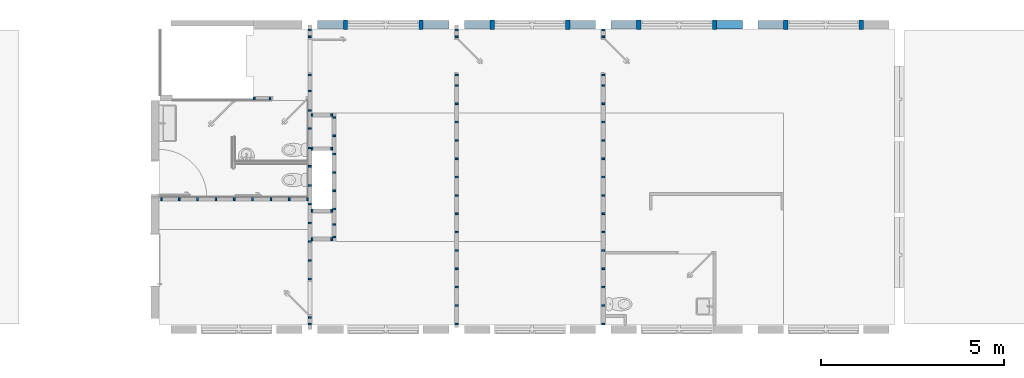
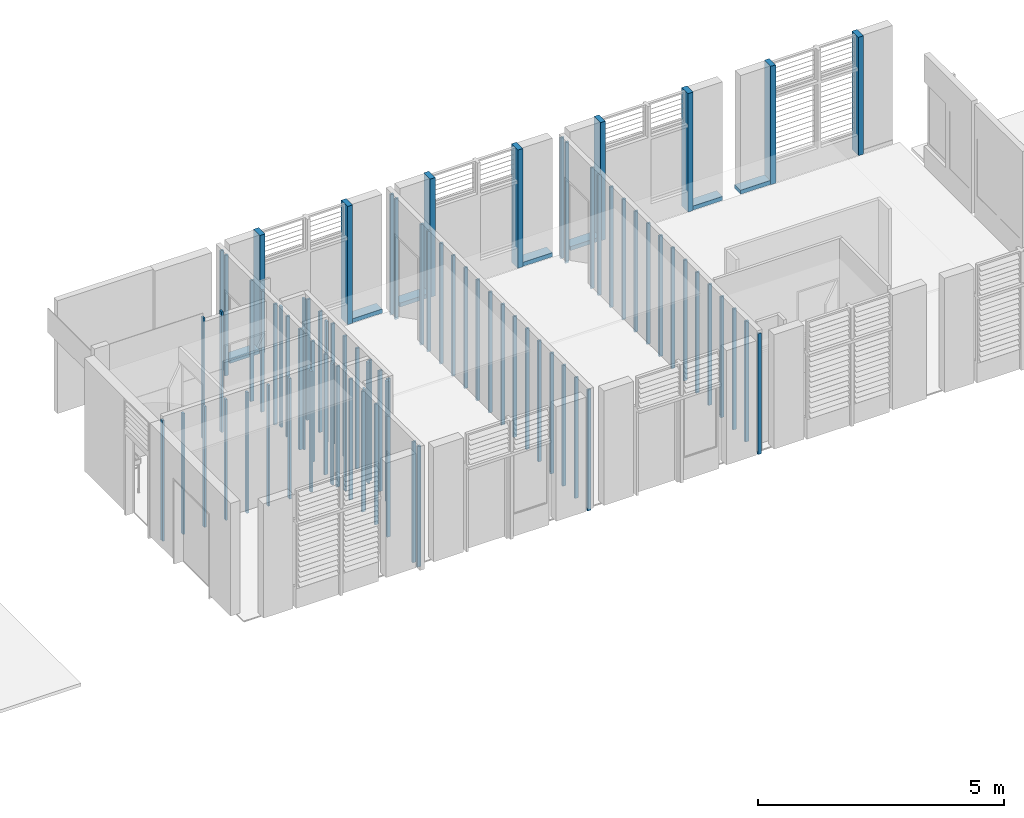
# One storey, part 1 of 15: 85 columns, 7 beams.
"""IFC2X3 building model written with IfcOpenShell, lengths in metres."""

from ifc_helpers import new_model, entity, si_unit, converted_unit, derived_unit, direction, frame, frame_2d, origin, origin_2d_with_axis, place, context, subcontext, project, spatial, rectangle, extrude, source, transform, mapped, material, type_object, type_shapes, element, save


model = new_model("IFC2X3")

# Units and contexts
model_context = context("Model", 3, precision=1e-05, world=origin(), true_north=direction((6.12303176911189e-17, 1.0)))
body_context = subcontext(model_context, "Body", "Model", "MODEL_VIEW")
ifc_project = project(units=[si_unit("LENGTHUNIT", "METRE"), si_unit("AREAUNIT", "SQUARE_METRE"), si_unit("VOLUMEUNIT", "CUBIC_METRE"), converted_unit("PLANEANGLEUNIT", "DEGREE", entity("IfcRatioMeasure", 0.0174532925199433), si_unit("PLANEANGLEUNIT", "RADIAN"), dimensions=[0, 0, 0, 0, 0, 0, 0]), si_unit("MASSUNIT", "GRAM", prefix="KILO"), derived_unit("MASSDENSITYUNIT", [(si_unit("MASSUNIT", "GRAM", prefix="KILO"), 1), (si_unit("LENGTHUNIT", "METRE"), -3)]), si_unit("TIMEUNIT", "SECOND"), si_unit("FREQUENCYUNIT", "HERTZ"), si_unit("THERMODYNAMICTEMPERATUREUNIT", "DEGREE_CELSIUS"), derived_unit("THERMALTRANSMITTANCEUNIT", [(si_unit("MASSUNIT", "GRAM", prefix="KILO"), 1), (si_unit("THERMODYNAMICTEMPERATUREUNIT", "KELVIN"), -1), (si_unit("TIMEUNIT", "SECOND"), -3)]), derived_unit("VOLUMETRICFLOWRATEUNIT", [(si_unit("LENGTHUNIT", "METRE"), 3), (si_unit("TIMEUNIT", "SECOND"), -1)]), si_unit("ELECTRICCURRENTUNIT", "AMPERE"), si_unit("ELECTRICVOLTAGEUNIT", "VOLT"), si_unit("POWERUNIT", "WATT"), si_unit("FORCEUNIT", "NEWTON", prefix="KILO"), si_unit("ILLUMINANCEUNIT", "LUX"), si_unit("LUMINOUSFLUXUNIT", "LUMEN"), si_unit("LUMINOUSINTENSITYUNIT", "CANDELA"), derived_unit("USERDEFINED", [(si_unit("MASSUNIT", "GRAM", prefix="KILO"), -1), (si_unit("LENGTHUNIT", "METRE"), -2), (si_unit("TIMEUNIT", "SECOND"), 3), (si_unit("LUMINOUSFLUXUNIT", "LUMEN"), 1)]), derived_unit("LINEARVELOCITYUNIT", [(si_unit("LENGTHUNIT", "METRE"), 1), (si_unit("TIMEUNIT", "SECOND"), -1)]), si_unit("PRESSUREUNIT", "PASCAL"), derived_unit("USERDEFINED", [(si_unit("LENGTHUNIT", "METRE"), -2), (si_unit("MASSUNIT", "GRAM", prefix="KILO"), 1), (si_unit("TIMEUNIT", "SECOND"), -2)])], contexts=[model_context])

# Site, building, storey
site_placement = place(None, origin())
site = spatial("IfcSite", under=ifc_project, at=site_placement, Name="Surface", CompositionType="ELEMENT")
building_placement = place(site_placement, origin())
building = spatial("IfcBuilding", under=site, at=building_placement, Name="ExPREF", CompositionType="ELEMENT")
storey_placement = place(building_placement, frame((0.0, 0.0, 7.83)))
storey = spatial("IfcBuildingStorey", under=building, at=storey_placement, Name="R+2", CompositionType="ELEMENT", Elevation=7.83)

# Columns
ifc_material_1 = material(Name="AA-bois poutres")
column_type_1 = type_object("IfcColumnType", Name="HEA160", PredefinedType="COLUMN")
shared_shape_1 = source(origin(), body_context, "Body", "SweptSolid", [
    extrude(rectangle(XDim=0.26, YDim=0.12, at=frame_2d((0.0, -1.73472347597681e-17), x_axis=(1.0, 0.0))), frame((0.0, -0.0199999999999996, 7.83), z_axis=(0.0, 0.0, 1.0), x_axis=(0.0, -1.0, 0.0)), (0.0, 0.0, 1.0), 2.94),
])
type_shapes(column_type_1, [shared_shape_1])
for number, where, name in (
    (1, (50.459743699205, -185.036487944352, -7.83), "potelet bois:HEA160"),
    (2, (54.4597436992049, -185.036487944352, -7.83), "potelet bois:HEA160"),
    (3, (58.4597436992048, -185.036487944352, -7.83), "potelet bois:HEA160"),
    (4, (62.4597436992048, -185.036487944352, -7.83), "potelet bois:HEA160"),
):
    element("IfcColumn", number, at=place(storey_placement, frame(where)), inside=storey, type_object=column_type_1, material=ifc_material_1, Name=name, ObjectType="HEA160", context=body_context, shape_type="MappedRepresentation", body=[
        mapped(shared_shape_1, transform((0.0, 0.0, 0.0), scale=1.0)),
    ])
column_type_2 = type_object("IfcColumnType", Name="HEA160", PredefinedType="COLUMN")
shared_shape_2 = source(origin(), body_context, "Body", "SweptSolid", [
    extrude(rectangle(XDim=0.26, YDim=0.12, at=frame_2d((0.0, 1.73472347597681e-17), x_axis=(1.0, 0.0))), frame((0.0, 0.0199999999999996, 7.83), z_axis=(0.0, 0.0, 1.0), x_axis=(0.0, -1.0, 0.0)), (0.0, 0.0, 1.0), 2.94),
])
type_shapes(column_type_2, [shared_shape_2])
for number, where, z_axis, x_axis, name in (
    (5, (52.5197436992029, -185.036487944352, -7.83), (0.0, 0.0, 1.0), (-1.0, 0.0, 0.0), "potelet bois:HEA160"),
    (6, (56.5197436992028, -185.036487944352, -7.83), (0.0, 0.0, 1.0), (-1.0, 0.0, 0.0), "potelet bois:HEA160"),
    (7, (60.5197436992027, -185.036487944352, -7.83), (0.0, 0.0, 1.0), (-1.0, 0.0, 0.0), "potelet bois:HEA160"),
    (8, (64.5197436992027, -185.036487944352, -7.83), (0.0, 0.0, 1.0), (-1.0, 0.0, 0.0), "potelet bois:HEA160"),
):
    element("IfcColumn", number, at=place(storey_placement, frame(where, z_axis=z_axis, x_axis=x_axis)), inside=storey, type_object=column_type_2, material=ifc_material_1, Name=name, ObjectType="HEA160", context=body_context, shape_type="MappedRepresentation", body=[
        mapped(shared_shape_2, transform((0.0, 0.0, 0.0), scale=1.0)),
    ])
ifc_material_2 = material(Name="AA-bois tasseau cloison")
column_type_3 = type_object("IfcColumnType", Name="HEA160", PredefinedType="COLUMN")
shared_shape_3 = source(origin(), body_context, "Body", "SweptSolid", [
    extrude(rectangle(XDim=0.08, YDim=0.0449999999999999, at=origin_2d_with_axis()), frame((0.0, 0.0, 7.74), z_axis=(0.0, 0.0, 1.0), x_axis=(0.0, -1.0, 0.0)), (0.0, 0.0, 1.0), 3.0),
])
type_shapes(column_type_3, [shared_shape_3])
for number, where, name in (
    (9, (47.972243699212, -187.066488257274, -7.83), "poteau bois 8x4.5 cm:HEA160"),
    (10, (48.4072436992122, -187.066488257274, -7.83), "poteau bois 8x4.5 cm:HEA160"),
    (11, (50.0872436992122, -190.900069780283, -7.83), "poteau bois 8x4.5 cm:HEA160"),
    (12, (50.0872436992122, -187.516069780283, -7.83), "poteau bois 8x4.5 cm:HEA160"),
    (13, (49.5522436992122, -187.516069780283, -7.83), "poteau bois 8x4.5 cm:HEA160"),
):
    element("IfcColumn", number, at=place(storey_placement, frame(where)), inside=storey, type_object=column_type_3, material=ifc_material_2, Name=name, ObjectType="HEA160", context=body_context, shape_type="MappedRepresentation", body=[
        mapped(shared_shape_3, transform((0.0, 0.0, 0.0), scale=1.0)),
    ])
for number, where, z_axis, x_axis, name in (
    (14, (50.1497436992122, -187.580569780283, -7.83), (0.0, 0.0, 1.0), (0.0, -1.0, 0.0), "poteau bois 8x4.5 cm:HEA160"),
    (15, (50.1497436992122, -188.080569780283, -7.83), (0.0, 0.0, 1.0), (0.0, -1.0, 0.0), "poteau bois 8x4.5 cm:HEA160"),
    (16, (50.1497436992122, -188.580569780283, -7.83), (0.0, 0.0, 1.0), (0.0, -1.0, 0.0), "poteau bois 8x4.5 cm:HEA160"),
    (17, (50.1497436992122, -189.080569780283, -7.83), (0.0, 0.0, 1.0), (0.0, -1.0, 0.0), "poteau bois 8x4.5 cm:HEA160"),
    (18, (50.1497436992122, -189.580569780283, -7.83), (0.0, 0.0, 1.0), (0.0, -1.0, 0.0), "poteau bois 8x4.5 cm:HEA160"),
    (19, (50.1497436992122, -190.080569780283, -7.83), (0.0, 0.0, 1.0), (0.0, -1.0, 0.0), "poteau bois 8x4.5 cm:HEA160"),
    (20, (50.1497436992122, -190.50556962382, -7.83), (0.0, 0.0, 1.0), (0.0, -1.0, 0.0), "poteau bois 8x4.5 cm:HEA160"),
):
    element("IfcColumn", number, at=place(storey_placement, frame(where, z_axis=z_axis, x_axis=x_axis)), inside=storey, type_object=column_type_3, material=ifc_material_2, Name=name, ObjectType="HEA160", context=body_context, shape_type="MappedRepresentation", body=[
        mapped(shared_shape_3, transform((0.0, 0.0, 0.0), scale=1.0)),
    ])
for number, where, name in (
    (21, (50.0872436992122, -188.438069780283, -7.83), "poteau bois 8x4.5 cm:HEA160"),
    (22, (49.5522436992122, -188.438069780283, -7.83), "poteau bois 8x4.5 cm:HEA160"),
    (23, (49.5522436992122, -190.128069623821, -7.83), "poteau bois 8x4.5 cm:HEA160"),
):
    element("IfcColumn", number, at=place(storey_placement, frame(where)), inside=storey, type_object=column_type_3, material=ifc_material_2, Name=name, ObjectType="HEA160", context=body_context, shape_type="MappedRepresentation", body=[
        mapped(shared_shape_3, transform((0.0, 0.0, 0.0), scale=1.0)),
    ])
column_1_placement = place(storey_placement, frame((49.4897436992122, -190.962569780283, -7.83), z_axis=(0.0, 0.0, 1.0), x_axis=(0.0, 1.0, 0.0)))
element("IfcColumn", 24, at=column_1_placement, inside=storey, type_object=column_type_3, material=ifc_material_2, Name="poteau bois 8x4.5 cm:HEA160", ObjectType="HEA160", context=body_context, shape_type="MappedRepresentation", body=[
    mapped(shared_shape_3, transform((0.0, 0.0, 0.0), scale=1.0)),
])
column_2_placement = place(storey_placement, frame((50.0872436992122, -190.128069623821, -7.83)))
element("IfcColumn", 25, at=column_2_placement, inside=storey, type_object=column_type_3, material=ifc_material_2, Name="poteau bois 8x4.5 cm:HEA160", ObjectType="HEA160", context=body_context, shape_type="MappedRepresentation", body=[
    mapped(shared_shape_3, transform((0.0, 0.0, 0.0), scale=1.0)),
])
column_3_placement = place(storey_placement, frame((50.1497436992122, -190.837569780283, -7.83), z_axis=(0.0, 0.0, 1.0), x_axis=(0.0, -1.0, 0.0)))
element("IfcColumn", 26, at=column_3_placement, inside=storey, type_object=column_type_3, material=ifc_material_2, Name="poteau bois 8x4.5 cm:HEA160", ObjectType="HEA160", context=body_context, shape_type="MappedRepresentation", body=[
    mapped(shared_shape_3, transform((0.0, 0.0, 0.0), scale=1.0)),
])
column_4_placement = place(storey_placement, frame((49.5522436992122, -190.900069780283, -7.83)))
element("IfcColumn", 27, at=column_4_placement, inside=storey, type_object=column_type_3, material=ifc_material_2, Name="poteau bois 8x4.5 cm:HEA160", ObjectType="HEA160", context=body_context, shape_type="MappedRepresentation", body=[
    mapped(shared_shape_3, transform((0.0, 0.0, 0.0), scale=1.0)),
])
for number, where, z_axis, x_axis, name in (
    (28, (49.4897436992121, -193.217151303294, -7.83), (0.0, 0.0, 1.0), (0.0, 1.0, 0.0), "poteau bois 8x4.5 cm:HEA160"),
    (29, (49.4897436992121, -191.987151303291, -7.83), (0.0, 0.0, 1.0), (0.0, 1.0, 0.0), "poteau bois 8x4.5 cm:HEA160"),
    (30, (49.4897436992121, -193.032151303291, -7.83), (0.0, 0.0, 1.0), (0.0, 1.0, 0.0), "poteau bois 8x4.5 cm:HEA160"),
    (31, (49.4897436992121, -191.487151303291, -7.83), (0.0, 0.0, 1.0), (0.0, 1.0, 0.0), "poteau bois 8x4.5 cm:HEA160"),
    (32, (49.4897436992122, -189.937988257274, -7.83), (0.0, 0.0, 1.0), (0.0, 1.0, 0.0), "poteau bois 8x4.5 cm:HEA160"),
    (33, (49.4897436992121, -190.462569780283, -7.83), (0.0, 0.0, 1.0), (0.0, 1.0, 0.0), "poteau bois 8x4.5 cm:HEA160"),
    (34, (49.4897436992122, -188.913406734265, -7.83), (0.0, 0.0, 1.0), (0.0, 1.0, 0.0), "poteau bois 8x4.5 cm:HEA160"),
    (35, (49.4897436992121, -189.437988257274, -7.83), (0.0, 0.0, 1.0), (0.0, 1.0, 0.0), "poteau bois 8x4.5 cm:HEA160"),
    (36, (49.4897436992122, -187.888825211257, -7.83), (0.0, 0.0, 1.0), (0.0, 1.0, 0.0), "poteau bois 8x4.5 cm:HEA160"),
    (37, (49.4897436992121, -188.413406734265, -7.83), (0.0, 0.0, 1.0), (0.0, 1.0, 0.0), "poteau bois 8x4.5 cm:HEA160"),
    (38, (49.4897436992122, -186.864243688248, -7.83), (0.0, 0.0, 1.0), (0.0, 1.0, 0.0), "poteau bois 8x4.5 cm:HEA160"),
    (39, (49.4897436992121, -187.388825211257, -7.83), (0.0, 0.0, 1.0), (0.0, 1.0, 0.0), "poteau bois 8x4.5 cm:HEA160"),
    (40, (57.4897436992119, -193.217151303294, -7.83), (0.0, 0.0, 1.0), (0.0, 1.0, 0.0), "poteau bois 8x4.5 cm:HEA160"),
    (41, (57.4897436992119, -189.708069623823, -7.83), (0.0, 0.0, 1.0), (0.0, 1.0, 0.0), "poteau bois 8x4.5 cm:HEA160"),
    (42, (57.4897436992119, -190.208069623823, -7.83), (0.0, 0.0, 1.0), (0.0, 1.0, 0.0), "poteau bois 8x4.5 cm:HEA160"),
    (43, (57.4897436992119, -190.708069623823, -7.83), (0.0, 0.0, 1.0), (0.0, 1.0, 0.0), "poteau bois 8x4.5 cm:HEA160"),
    (44, (57.4897436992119, -191.208069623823, -7.83), (0.0, 0.0, 1.0), (0.0, 1.0, 0.0), "poteau bois 8x4.5 cm:HEA160"),
    (45, (57.4897436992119, -191.708069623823, -7.83), (0.0, 0.0, 1.0), (0.0, 1.0, 0.0), "poteau bois 8x4.5 cm:HEA160"),
    (46, (57.4897436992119, -192.208069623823, -7.83), (0.0, 0.0, 1.0), (0.0, 1.0, 0.0), "poteau bois 8x4.5 cm:HEA160"),
    (47, (57.4897436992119, -192.708069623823, -7.83), (0.0, 0.0, 1.0), (0.0, 1.0, 0.0), "poteau bois 8x4.5 cm:HEA160"),
    (48, (53.489743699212, -193.217151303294, -7.83), (0.0, 0.0, 1.0), (0.0, 1.0, 0.0), "poteau bois 8x4.5 cm:HEA160"),
    (49, (53.489743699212, -189.708069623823, -7.83), (0.0, 0.0, 1.0), (0.0, 1.0, 0.0), "poteau bois 8x4.5 cm:HEA160"),
    (50, (53.489743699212, -190.208069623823, -7.83), (0.0, 0.0, 1.0), (0.0, 1.0, 0.0), "poteau bois 8x4.5 cm:HEA160"),
    (51, (53.489743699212, -190.708069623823, -7.83), (0.0, 0.0, 1.0), (0.0, 1.0, 0.0), "poteau bois 8x4.5 cm:HEA160"),
    (52, (53.489743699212, -191.208069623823, -7.83), (0.0, 0.0, 1.0), (0.0, 1.0, 0.0), "poteau bois 8x4.5 cm:HEA160"),
    (53, (53.489743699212, -191.708069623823, -7.83), (0.0, 0.0, 1.0), (0.0, 1.0, 0.0), "poteau bois 8x4.5 cm:HEA160"),
    (54, (53.489743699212, -192.208069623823, -7.83), (0.0, 0.0, 1.0), (0.0, 1.0, 0.0), "poteau bois 8x4.5 cm:HEA160"),
    (55, (53.489743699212, -192.708069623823, -7.83), (0.0, 0.0, 1.0), (0.0, 1.0, 0.0), "poteau bois 8x4.5 cm:HEA160"),
):
    element("IfcColumn", number, at=place(storey_placement, frame(where, z_axis=z_axis, x_axis=x_axis)), inside=storey, type_object=column_type_3, material=ifc_material_2, Name=name, ObjectType="HEA160", context=body_context, shape_type="MappedRepresentation", body=[
        mapped(shared_shape_3, transform((0.0, 0.0, 0.0), scale=1.0)),
    ])
for number, where, name in (
    (56, (49.4272436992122, -189.80806962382, -7.83), "poteau bois 8x4.5 cm:HEA160"),
    (57, (48.9272436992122, -189.80806962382, -7.83), "poteau bois 8x4.5 cm:HEA160"),
    (58, (48.4272436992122, -189.80806962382, -7.83), "poteau bois 8x4.5 cm:HEA160"),
    (59, (47.9272436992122, -189.80806962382, -7.83), "poteau bois 8x4.5 cm:HEA160"),
    (60, (47.4272436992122, -189.80806962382, -7.83), "poteau bois 8x4.5 cm:HEA160"),
    (61, (46.9272436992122, -189.80806962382, -7.83), "poteau bois 8x4.5 cm:HEA160"),
    (62, (46.4272436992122, -189.80806962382, -7.83), "poteau bois 8x4.5 cm:HEA160"),
    (63, (45.9272436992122, -189.80806962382, -7.83), "poteau bois 8x4.5 cm:HEA160"),
    (64, (45.442243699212, -189.80806962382, -7.83), "poteau bois 8x4.5 cm:HEA160"),
):
    element("IfcColumn", number, at=place(storey_placement, frame(where)), inside=storey, type_object=column_type_3, material=ifc_material_2, Name=name, ObjectType="HEA160", context=body_context, shape_type="MappedRepresentation", body=[
        mapped(shared_shape_3, transform((0.0, 0.0, 0.0), scale=1.0)),
    ])
column_type_4 = type_object("IfcColumnType", Name="HEA160", PredefinedType="COLUMN")
shared_shape_4 = source(origin(), body_context, "Body", "SweptSolid", [
    extrude(rectangle(XDim=0.08, YDim=0.0449999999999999, at=origin_2d_with_axis()), frame((0.0, 0.0, 7.74), z_axis=(0.0, 0.0, 1.0), x_axis=(0.0, -1.0, 0.0)), (0.0, 0.0, 1.0), 3.0),
])
type_shapes(column_type_4, [shared_shape_4])
for number, where, z_axis, x_axis, name in (
    (65, (49.4897436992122, -185.19898794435, -7.83), (0.0, 0.0, 1.0), (0.0, -1.0, 0.0), "poteau bois 8x4.5 cm:HEA160"),
    (66, (49.4897436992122, -186.428987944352, -7.83), (0.0, 0.0, 1.0), (0.0, -1.0, 0.0), "poteau bois 8x4.5 cm:HEA160"),
    (67, (49.4897436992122, -185.383987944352, -7.83), (0.0, 0.0, 1.0), (0.0, -1.0, 0.0), "poteau bois 8x4.5 cm:HEA160"),
    (68, (57.4897436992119, -189.20806962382, -7.83), (0.0, 0.0, 1.0), (0.0, -1.0, 0.0), "poteau bois 8x4.5 cm:HEA160"),
    (69, (57.4897436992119, -188.70806962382, -7.83), (0.0, 0.0, 1.0), (0.0, -1.0, 0.0), "poteau bois 8x4.5 cm:HEA160"),
    (70, (57.4897436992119, -188.20806962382, -7.83), (0.0, 0.0, 1.0), (0.0, -1.0, 0.0), "poteau bois 8x4.5 cm:HEA160"),
    (71, (57.4897436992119, -187.70806962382, -7.83), (0.0, 0.0, 1.0), (0.0, -1.0, 0.0), "poteau bois 8x4.5 cm:HEA160"),
    (72, (57.4897436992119, -187.20806962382, -7.83), (0.0, 0.0, 1.0), (0.0, -1.0, 0.0), "poteau bois 8x4.5 cm:HEA160"),
    (73, (57.4897436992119, -186.70806962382, -7.83), (0.0, 0.0, 1.0), (0.0, -1.0, 0.0), "poteau bois 8x4.5 cm:HEA160"),
    (74, (57.4897436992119, -185.19898794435, -7.83), (0.0, 0.0, 1.0), (0.0, -1.0, 0.0), "poteau bois 8x4.5 cm:HEA160"),
    (75, (57.4897436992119, -186.428987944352, -7.83), (0.0, 0.0, 1.0), (0.0, -1.0, 0.0), "poteau bois 8x4.5 cm:HEA160"),
    (76, (57.4897436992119, -185.383987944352, -7.83), (0.0, 0.0, 1.0), (0.0, -1.0, 0.0), "poteau bois 8x4.5 cm:HEA160"),
    (77, (53.489743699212, -189.20806962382, -7.83), (0.0, 0.0, 1.0), (0.0, -1.0, 0.0), "poteau bois 8x4.5 cm:HEA160"),
    (78, (53.489743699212, -188.70806962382, -7.83), (0.0, 0.0, 1.0), (0.0, -1.0, 0.0), "poteau bois 8x4.5 cm:HEA160"),
    (79, (53.489743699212, -188.20806962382, -7.83), (0.0, 0.0, 1.0), (0.0, -1.0, 0.0), "poteau bois 8x4.5 cm:HEA160"),
    (80, (53.489743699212, -187.70806962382, -7.83), (0.0, 0.0, 1.0), (0.0, -1.0, 0.0), "poteau bois 8x4.5 cm:HEA160"),
    (81, (53.489743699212, -187.20806962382, -7.83), (0.0, 0.0, 1.0), (0.0, -1.0, 0.0), "poteau bois 8x4.5 cm:HEA160"),
    (82, (53.489743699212, -186.70806962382, -7.83), (0.0, 0.0, 1.0), (0.0, -1.0, 0.0), "poteau bois 8x4.5 cm:HEA160"),
    (83, (53.489743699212, -185.19898794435, -7.83), (0.0, 0.0, 1.0), (0.0, -1.0, 0.0), "poteau bois 8x4.5 cm:HEA160"),
    (84, (53.489743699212, -186.428987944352, -7.83), (0.0, 0.0, 1.0), (0.0, -1.0, 0.0), "poteau bois 8x4.5 cm:HEA160"),
    (85, (53.489743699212, -185.383987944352, -7.83), (0.0, 0.0, 1.0), (0.0, -1.0, 0.0), "poteau bois 8x4.5 cm:HEA160"),
):
    element("IfcColumn", number, at=place(storey_placement, frame(where, z_axis=z_axis, x_axis=x_axis)), inside=storey, type_object=column_type_4, material=ifc_material_2, Name=name, ObjectType="HEA160", context=body_context, shape_type="MappedRepresentation", body=[
        mapped(shared_shape_4, transform((0.0, 0.0, 0.0), scale=1.0)),
    ])

# Beams
beam_type = type_object("IfcBeamType", Name="Poutre - Bois de construction de dimensions courantes:A-24x10 cm", PredefinedType="BEAM")
beam_1_placement = place(storey_placement, frame((50.3796105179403, -185.056487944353, 0.1), z_axis=(0.0, 0.0, 1.0), x_axis=(-1.0, 0.0, 0.0)))
element("IfcBeam", 86, at=beam_1_placement, inside=storey, type_object=beam_type, material=ifc_material_1, Name="Poutre - Bois de construction de dimensions courantes:A-24x10 cm", ObjectType="Poutre - Bois de construction de dimensions courantes:A-24x10 cm", context=body_context, shape_type="SweptSolid", body=[
    extrude(rectangle(XDim=0.1, YDim=0.240000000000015, at=frame_2d((5.41233724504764e-16, 0.0), x_axis=(1.0, 0.0))), frame((-0.0201331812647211, 0.0, -0.0500000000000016), z_axis=(1.0, 0.0, 0.0), x_axis=(0.0, 0.0, -1.0)), (0.0, 0.0, 1.0), 0.699999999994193),
])
beam_2_placement = place(storey_placement, frame((53.2770598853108, -185.056487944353, 0.1), z_axis=(0.0, 0.0, 1.0), x_axis=(-1.0, 0.0, 0.0)))
element("IfcBeam", 87, at=beam_2_placement, inside=storey, type_object=beam_type, material=ifc_material_1, Name="Poutre - Bois de construction de dimensions courantes:A-24x10 cm", ObjectType="Poutre - Bois de construction de dimensions courantes:A-24x10 cm", context=body_context, shape_type="SweptSolid", body=[
    extrude(rectangle(XDim=0.1, YDim=0.240000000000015, at=frame_2d((5.41233724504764e-16, 0.0), x_axis=(1.0, 0.0))), frame((-0.00268381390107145, 0.0, -0.0500000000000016), z_axis=(1.0, 0.0, 0.0), x_axis=(0.0, 0.0, -1.0)), (0.0, 0.0, 1.0), 0.700000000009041),
])
beam_3_placement = place(storey_placement, frame((54.3796105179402, -185.056487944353, 0.1), z_axis=(0.0, 0.0, 1.0), x_axis=(-1.0, 0.0, 0.0)))
element("IfcBeam", 88, at=beam_3_placement, inside=storey, type_object=beam_type, material=ifc_material_1, Name="Poutre - Bois de construction de dimensions courantes:A-24x10 cm", ObjectType="Poutre - Bois de construction de dimensions courantes:A-24x10 cm", context=body_context, shape_type="SweptSolid", body=[
    extrude(rectangle(XDim=0.1, YDim=0.240000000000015, at=frame_2d((5.41233724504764e-16, 0.0), x_axis=(1.0, 0.0))), frame((-0.0201331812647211, 0.0, -0.0500000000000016), z_axis=(1.0, 0.0, 0.0), x_axis=(0.0, 0.0, -1.0)), (0.0, 0.0, 1.0), 0.699999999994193),
])
beam_4_placement = place(storey_placement, frame((57.2770598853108, -185.056487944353, 0.1), z_axis=(0.0, 0.0, 1.0), x_axis=(-1.0, 0.0, 0.0)))
element("IfcBeam", 89, at=beam_4_placement, inside=storey, type_object=beam_type, material=ifc_material_1, Name="Poutre - Bois de construction de dimensions courantes:A-24x10 cm", ObjectType="Poutre - Bois de construction de dimensions courantes:A-24x10 cm", context=body_context, shape_type="SweptSolid", body=[
    extrude(rectangle(XDim=0.1, YDim=0.240000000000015, at=frame_2d((5.41233724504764e-16, 0.0), x_axis=(1.0, 0.0))), frame((-0.00268381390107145, 0.0, -0.0500000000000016), z_axis=(1.0, 0.0, 0.0), x_axis=(0.0, 0.0, -1.0)), (0.0, 0.0, 1.0), 0.700000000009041),
])
beam_5_placement = place(storey_placement, frame((58.3796105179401, -185.056487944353, 0.1), z_axis=(0.0, 0.0, 1.0), x_axis=(-1.0, 0.0, 0.0)))
element("IfcBeam", 90, at=beam_5_placement, inside=storey, type_object=beam_type, material=ifc_material_1, Name="Poutre - Bois de construction de dimensions courantes:A-24x10 cm", ObjectType="Poutre - Bois de construction de dimensions courantes:A-24x10 cm", context=body_context, shape_type="SweptSolid", body=[
    extrude(rectangle(XDim=0.1, YDim=0.240000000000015, at=frame_2d((5.41233724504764e-16, 0.0), x_axis=(1.0, 0.0))), frame((-0.0201331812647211, 0.0, -0.0500000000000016), z_axis=(1.0, 0.0, 0.0), x_axis=(0.0, 0.0, -1.0)), (0.0, 0.0, 1.0), 0.699999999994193),
])
beam_6_placement = place(storey_placement, frame((61.2770598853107, -185.056487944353, 0.1), z_axis=(0.0, 0.0, 1.0), x_axis=(-1.0, 0.0, 0.0)))
element("IfcBeam", 91, at=beam_6_placement, inside=storey, type_object=beam_type, material=ifc_material_1, Name="Poutre - Bois de construction de dimensions courantes:A-24x10 cm", ObjectType="Poutre - Bois de construction de dimensions courantes:A-24x10 cm", context=body_context, shape_type="SweptSolid", body=[
    extrude(rectangle(XDim=0.1, YDim=0.240000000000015, at=frame_2d((5.41233724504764e-16, 0.0), x_axis=(1.0, 0.0))), frame((-0.00268381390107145, 0.0, -0.0500000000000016), z_axis=(1.0, 0.0, 0.0), x_axis=(0.0, 0.0, -1.0)), (0.0, 0.0, 1.0), 0.700000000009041),
])
beam_7_placement = place(storey_placement, frame((62.37961051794, -185.056487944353, 0.1), z_axis=(0.0, 0.0, 1.0), x_axis=(-1.0, 0.0, 0.0)))
element("IfcBeam", 92, at=beam_7_placement, inside=storey, type_object=beam_type, material=ifc_material_1, Name="Poutre - Bois de construction de dimensions courantes:A-24x10 cm", ObjectType="Poutre - Bois de construction de dimensions courantes:A-24x10 cm", context=body_context, shape_type="SweptSolid", body=[
    extrude(rectangle(XDim=0.1, YDim=0.240000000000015, at=frame_2d((5.41233724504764e-16, 0.0), x_axis=(1.0, 0.0))), frame((-0.0201331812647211, 0.0, -0.0500000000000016), z_axis=(1.0, 0.0, 0.0), x_axis=(0.0, 0.0, -1.0)), (0.0, 0.0, 1.0), 0.699999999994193),
])

save(model, "model.ifc")
